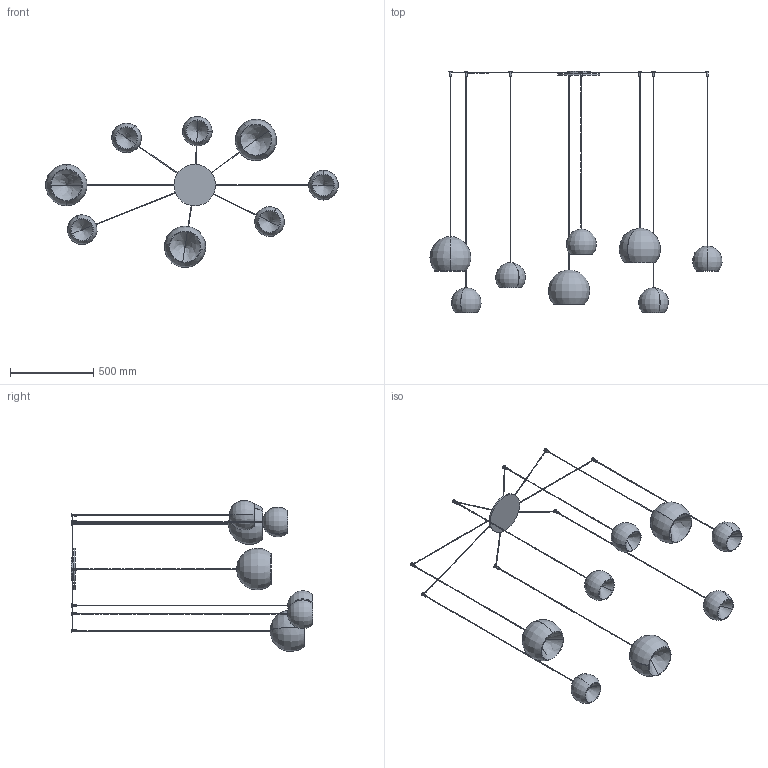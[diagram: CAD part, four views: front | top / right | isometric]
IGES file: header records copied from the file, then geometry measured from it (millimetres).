
Start section: SolidWorks IGES file using analytic representation for surfaces
Global section: file name: Y:\eforma\TECNICO\SOLIDWORKS\E-FORMA\09-LAMPADE\CHERRY MIX\02 parts\CRMA6-00-CHERRY MIX_8 sospensione.IGS; native system: SolidWorks 2022; preprocessor: SolidWorks 2022; author: eforma.tech; date: 250506.094211; units: millimetre
Bounding box: 1754.45 x 1450 x 908.96 mm (x, y, z)
Volume: 2904035 mm3; surface area: 2543773.3 mm2
Topology: 41 solids, 41 shells, 302 faces, 635 edges, 400 vertices
Faces by surface type: revolution 203, plane 99
